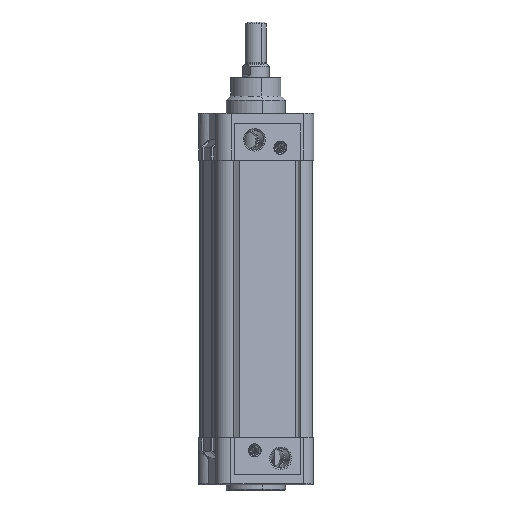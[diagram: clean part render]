
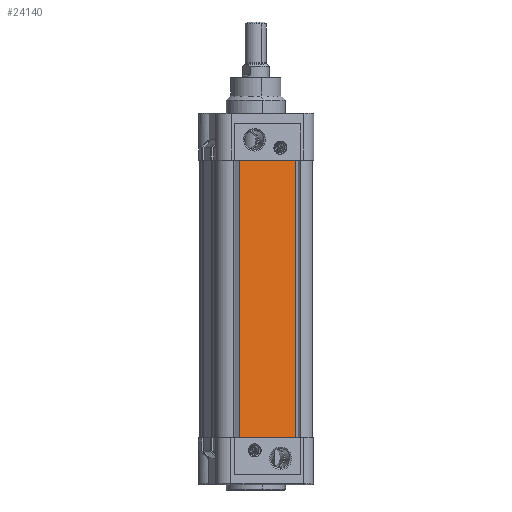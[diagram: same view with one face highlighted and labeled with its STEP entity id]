
A CAD part, left-side view. The second image highlights one B-rep face of the part: STEP entity #24140.
In plain terms, the highlighted planar face has unit normal (-0.973, -0.229, 0) as drawn and (0, -1, 0) by its records, which use the part's own axes.
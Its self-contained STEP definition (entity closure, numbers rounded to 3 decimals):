
#1349 = PLANE ( 'NONE',  #29038 ) ;
#2197 = FACE_OUTER_BOUND ( 'NONE', #28787, .T. ) ;
#2913 = ORIENTED_EDGE ( 'NONE', *, *, #5386, .F. ) ;
#3205 = EDGE_CURVE ( 'NONE', #29699, #5512, #16882, .T. ) ;
#3271 = ORIENTED_EDGE ( 'NONE', *, *, #3205, .F. ) ;
#4760 = VERTEX_POINT ( 'NONE', #5760 ) ;
#5092 = ORIENTED_EDGE ( 'NONE', *, *, #9419, .F. ) ;
#5386 = EDGE_CURVE ( 'NONE', #20648, #4760, #32001, .T. ) ;
#5512 = VERTEX_POINT ( 'NONE', #11828 ) ;
#5753 = CARTESIAN_POINT ( 'NONE',  ( 37.5, -75., 210. ) ) ;
#5760 = CARTESIAN_POINT ( 'NONE',  ( 15.85, -75., 210. ) ) ;
#6828 = DIRECTION ( 'NONE',  ( 0., 0., 1. ) ) ;
#7939 = CARTESIAN_POINT ( 'NONE',  ( 15.85, -75., 105. ) ) ;
#8289 = VECTOR ( 'NONE', #32004, 1000. ) ;
#8513 = DIRECTION ( 'NONE',  ( 1., 0., 0. ) ) ;
#9419 = EDGE_CURVE ( 'NONE', #4760, #29699, #22402, .T. ) ;
#11700 = DIRECTION ( 'NONE',  ( 1., 0., 0. ) ) ;
#11828 = CARTESIAN_POINT ( 'NONE',  ( 59.15, -75., 0. ) ) ;
#12816 = EDGE_CURVE ( 'NONE', #20648, #5512, #24450, .T. ) ;
#16882 = LINE ( 'NONE', #34324, #31610 ) ;
#20520 = CARTESIAN_POINT ( 'NONE',  ( 15.85, -75., 0. ) ) ;
#20648 = VERTEX_POINT ( 'NONE', #24806 ) ;
#22402 = LINE ( 'NONE', #5753, #35371 ) ;
#23269 = ORIENTED_EDGE ( 'NONE', *, *, #12816, .T. ) ;
#23334 = DIRECTION ( 'NONE',  ( 0., 1., 0. ) ) ;
#24140 = ADVANCED_FACE ( 'NONE', ( #2197 ), #1349, .F. ) ;
#24450 = LINE ( 'NONE', #30994, #30900 ) ;
#24806 = CARTESIAN_POINT ( 'NONE',  ( 15.85, -75., 0. ) ) ;
#28787 = EDGE_LOOP ( 'NONE', ( #23269, #3271, #5092, #2913 ) ) ;
#29038 = AXIS2_PLACEMENT_3D ( 'NONE', #20520, #23334, #6828 ) ;
#29699 = VERTEX_POINT ( 'NONE', #31323 ) ;
#30900 = VECTOR ( 'NONE', #11700, 1000. ) ;
#30994 = CARTESIAN_POINT ( 'NONE',  ( 37.5, -75., 0. ) ) ;
#31323 = CARTESIAN_POINT ( 'NONE',  ( 59.15, -75., 210. ) ) ;
#31610 = VECTOR ( 'NONE', #33512, 1000. ) ;
#32001 = LINE ( 'NONE', #7939, #8289 ) ;
#32004 = DIRECTION ( 'NONE',  ( 0., 0., 1. ) ) ;
#33512 = DIRECTION ( 'NONE',  ( 0., 0., -1. ) ) ;
#34324 = CARTESIAN_POINT ( 'NONE',  ( 59.15, -75., 105. ) ) ;
#35371 = VECTOR ( 'NONE', #8513, 1000. ) ;
